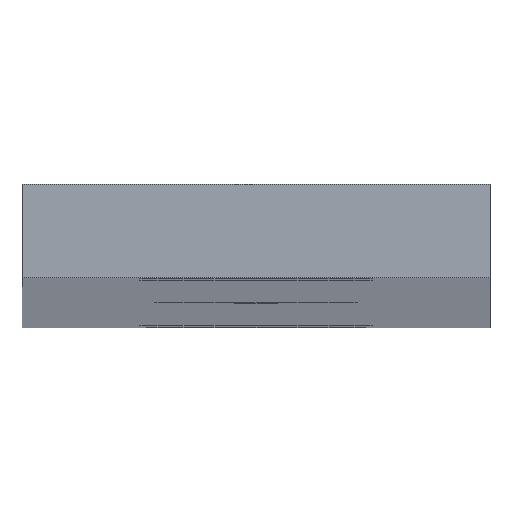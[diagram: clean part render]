
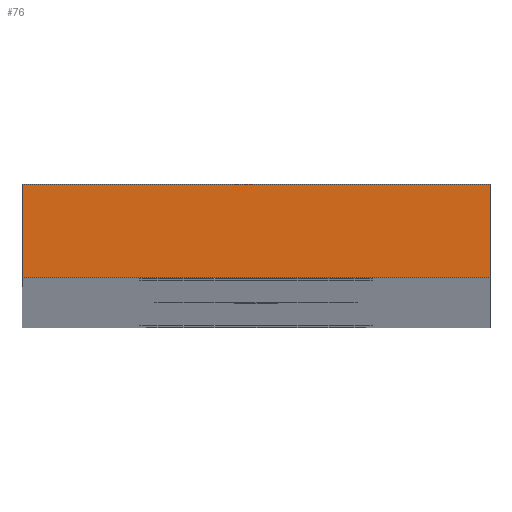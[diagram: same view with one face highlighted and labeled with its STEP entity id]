
A CAD part, top view. The second image highlights one B-rep face of the part: STEP entity #76.
In plain terms, the highlighted planar face has unit normal (0, 0, 1).
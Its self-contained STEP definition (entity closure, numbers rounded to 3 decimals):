
#76 = ADVANCED_FACE( '', ( #89 ), #90, .T. );
#89 = FACE_OUTER_BOUND( '', #126, .T. );
#90 = PLANE( '', #127 );
#126 = EDGE_LOOP( '', ( #168, #169, #170, #171 ) );
#127 = AXIS2_PLACEMENT_3D( '', #172, #173, #174 );
#168 = ORIENTED_EDGE( '', *, *, #240, .T. );
#169 = ORIENTED_EDGE( '', *, *, #242, .T. );
#170 = ORIENTED_EDGE( '', *, *, #243, .T. );
#171 = ORIENTED_EDGE( '', *, *, #244, .T. );
#172 = CARTESIAN_POINT( '', ( -7.937, -1.588, 488.95 ) );
#173 = DIRECTION( '', ( 0., 0., 1. ) );
#174 = DIRECTION( '', ( 1., 0., 0. ) );
#240 = EDGE_CURVE( '', #265, #263, #266, .T. );
#242 = EDGE_CURVE( '', #263, #268, #269, .T. );
#243 = EDGE_CURVE( '', #268, #270, #271, .T. );
#244 = EDGE_CURVE( '', #270, #265, #272, .T. );
#263 = VERTEX_POINT( '', #304 );
#265 = VERTEX_POINT( '', #307 );
#266 = LINE( '', #308, #309 );
#268 = VERTEX_POINT( '', #312 );
#269 = LINE( '', #313, #314 );
#270 = VERTEX_POINT( '', #315 );
#271 = LINE( '', #316, #317 );
#272 = LINE( '', #318, #319 );
#304 = CARTESIAN_POINT( '', ( -7.937, -1.588, 488.95 ) );
#307 = CARTESIAN_POINT( '', ( -7.937, 1.588, 488.95 ) );
#308 = CARTESIAN_POINT( '', ( -7.937, 1.588, 488.95 ) );
#309 = VECTOR( '', #354, 1000. );
#312 = CARTESIAN_POINT( '', ( 7.938, -1.588, 488.95 ) );
#313 = CARTESIAN_POINT( '', ( -7.937, -1.588, 488.95 ) );
#314 = VECTOR( '', #356, 1000. );
#315 = CARTESIAN_POINT( '', ( 7.938, 1.588, 488.95 ) );
#316 = CARTESIAN_POINT( '', ( 7.938, -1.588, 488.95 ) );
#317 = VECTOR( '', #357, 1000. );
#318 = CARTESIAN_POINT( '', ( 7.938, 1.588, 488.95 ) );
#319 = VECTOR( '', #358, 1000. );
#354 = DIRECTION( '', ( 0., -1., 0. ) );
#356 = DIRECTION( '', ( 1., 0., 0. ) );
#357 = DIRECTION( '', ( 0., 1., 0. ) );
#358 = DIRECTION( '', ( -1., 0., 0. ) );
